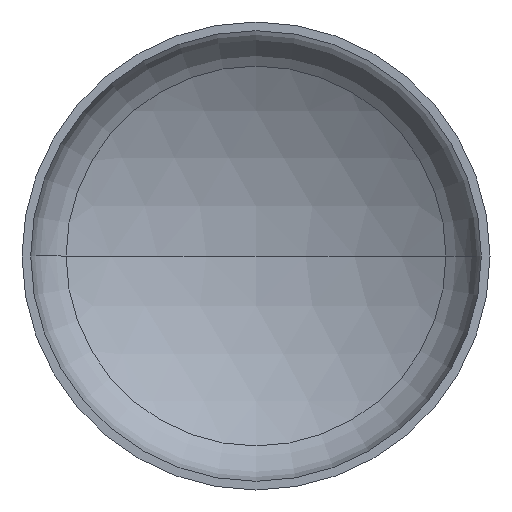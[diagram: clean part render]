
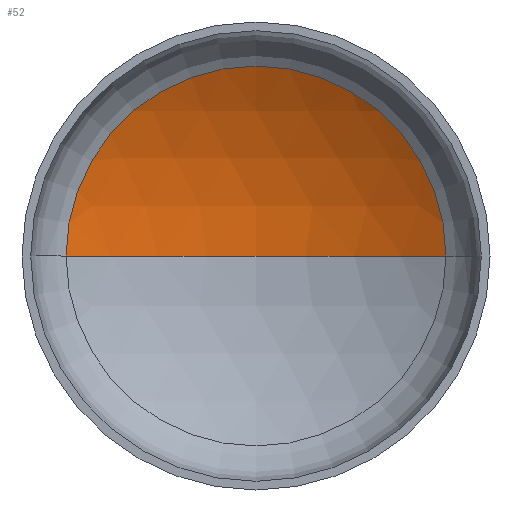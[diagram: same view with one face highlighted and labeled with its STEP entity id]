
A CAD part, front view. The second image highlights one B-rep face of the part: STEP entity #52.
In plain terms, the highlighted spherical face has radius 2400 mm.
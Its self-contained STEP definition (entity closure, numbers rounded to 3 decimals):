
#7 = CARTESIAN_POINT ( 'NONE',  ( 0., 516.437, 0. ) ) ;
#9 = ORIENTED_EDGE ( 'NONE', *, *, #137, .T. ) ;
#34 = AXIS2_PLACEMENT_3D ( 'NONE', #238, #236, #235 ) ;
#36 = VERTEX_POINT ( 'NONE', #264 ) ;
#39 = AXIS2_PLACEMENT_3D ( 'NONE', #91, #318, #162 ) ;
#41 = AXIS2_PLACEMENT_3D ( 'NONE', #7, #133, #339 ) ;
#52 = ADVANCED_FACE ( 'NONE', ( #249 ), #147, .F. ) ;
#60 = AXIS2_PLACEMENT_3D ( 'NONE', #282, #284, #288 ) ;
#64 = ORIENTED_EDGE ( 'NONE', *, *, #173, .F. ) ;
#76 = EDGE_LOOP ( 'NONE', ( #64, #233, #9 ) ) ;
#91 = CARTESIAN_POINT ( 'NONE',  ( 0., -1551.928, 0. ) ) ;
#94 = VERTEX_POINT ( 'NONE', #290 ) ;
#103 = CIRCLE ( 'NONE', #34, 2400. ) ;
#128 = CIRCLE ( 'NONE', #39, 2400. ) ;
#133 = DIRECTION ( 'NONE',  ( 0., -1., 0. ) ) ;
#137 = EDGE_CURVE ( 'NONE', #94, #381, #347, .T. ) ;
#140 = EDGE_CURVE ( 'NONE', #36, #94, #128, .T. ) ;
#147 = SPHERICAL_SURFACE ( 'NONE', #60, 2400. ) ;
#162 = DIRECTION ( 'NONE',  ( -1., 0., 0. ) ) ;
#173 = EDGE_CURVE ( 'NONE', #36, #381, #103, .T. ) ;
#233 = ORIENTED_EDGE ( 'NONE', *, *, #140, .T. ) ;
#235 = DIRECTION ( 'NONE',  ( 1., 0., 0. ) ) ;
#236 = DIRECTION ( 'NONE',  ( 0., 0., 1. ) ) ;
#238 = CARTESIAN_POINT ( 'NONE',  ( 0., -1551.928, 0. ) ) ;
#249 = FACE_OUTER_BOUND ( 'NONE', #76, .T. ) ;
#264 = CARTESIAN_POINT ( 'NONE',  ( 0., 848.072, 0. ) ) ;
#282 = CARTESIAN_POINT ( 'NONE',  ( 0., -1551.928, 0. ) ) ;
#284 = DIRECTION ( 'NONE',  ( 0., 0., -1. ) ) ;
#288 = DIRECTION ( 'NONE',  ( -1., 0., 0. ) ) ;
#290 = CARTESIAN_POINT ( 'NONE',  ( 1217.32, 516.437, 0. ) ) ;
#318 = DIRECTION ( 'NONE',  ( 0., 0., -1. ) ) ;
#322 = CARTESIAN_POINT ( 'NONE',  ( -1217.32, 516.437, 0. ) ) ;
#339 = DIRECTION ( 'NONE',  ( 1., 0., 0. ) ) ;
#347 = CIRCLE ( 'NONE', #41, 1217.32 ) ;
#381 = VERTEX_POINT ( 'NONE', #322 ) ;
